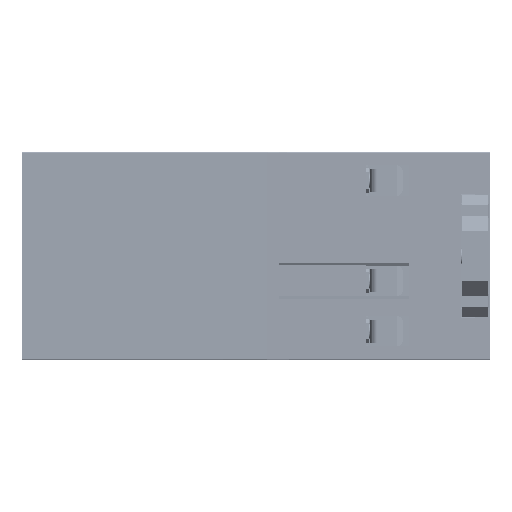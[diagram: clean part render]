
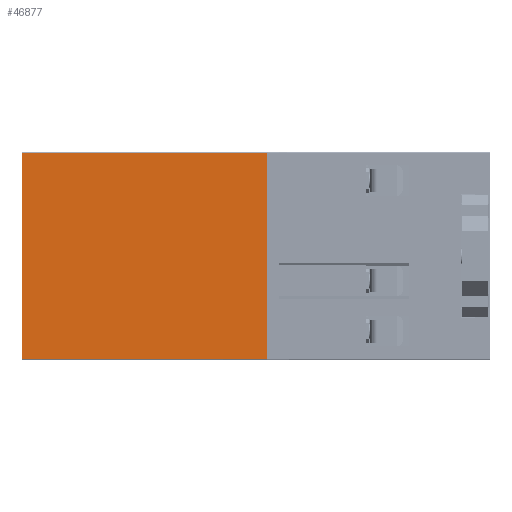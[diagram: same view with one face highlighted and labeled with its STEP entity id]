
A CAD part, left-side view. The second image highlights one B-rep face of the part: STEP entity #46877.
In plain terms, the highlighted planar face has unit normal (-1, 0.005, 0).
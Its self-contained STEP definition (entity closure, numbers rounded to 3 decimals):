
#13722=ELLIPSE('',#125497,0.2,0.2);
#13737=ELLIPSE('',#125782,0.2,0.2);
#18243=FACE_OUTER_BOUND('',#58066,.T.);
#24819=LINE('',#166776,#36214);
#24821=LINE('',#166782,#36216);
#24927=LINE('',#167073,#36322);
#24937=LINE('',#167091,#36332);
#25355=LINE('',#168016,#36750);
#25358=LINE('',#168022,#36753);
#25500=LINE('',#168360,#36895);
#25501=LINE('',#168361,#36896);
#36214=VECTOR('',#136672,1.);
#36216=VECTOR('',#136678,1.);
#36322=VECTOR('',#136888,1.);
#36332=VECTOR('',#136908,1.);
#36750=VECTOR('',#137780,1.);
#36753=VECTOR('',#137785,1.);
#36895=VECTOR('',#138205,1.);
#36896=VECTOR('',#138206,1.);
#46877=ADVANCED_FACE('',(#18243),#52619,.T.);
#52619=PLANE('',#125889);
#58066=EDGE_LOOP('',(#68371,#68372,#68373,#68374,#68375,#68376,#68377,#68378,
#68379,#68380));
#68371=ORIENTED_EDGE('',*,*,#108531,.F.);
#68372=ORIENTED_EDGE('',*,*,#109148,.T.);
#68373=ORIENTED_EDGE('',*,*,#108994,.F.);
#68374=ORIENTED_EDGE('',*,*,#108997,.F.);
#68375=ORIENTED_EDGE('',*,*,#109048,.F.);
#68376=ORIENTED_EDGE('',*,*,#108541,.F.);
#68377=ORIENTED_EDGE('',*,*,#108490,.F.);
#68378=ORIENTED_EDGE('',*,*,#108411,.F.);
#68379=ORIENTED_EDGE('',*,*,#108408,.T.);
#68380=ORIENTED_EDGE('',*,*,#109149,.T.);
#97214=VERTEX_POINT('',#166773);
#97215=VERTEX_POINT('',#166777);
#97217=VERTEX_POINT('',#166783);
#97259=VERTEX_POINT('',#166934);
#97289=VERTEX_POINT('',#167072);
#97290=VERTEX_POINT('',#167074);
#97293=VERTEX_POINT('',#167092);
#97560=VERTEX_POINT('',#168013);
#97561=VERTEX_POINT('',#168017);
#97562=VERTEX_POINT('',#168021);
#108408=EDGE_CURVE('',#97215,#97214,#24819,.T.);
#108411=EDGE_CURVE('',#97215,#97217,#24821,.T.);
#108490=EDGE_CURVE('',#97217,#97259,#13722,.T.);
#108531=EDGE_CURVE('',#97289,#97290,#24927,.T.);
#108541=EDGE_CURVE('',#97259,#97293,#24937,.T.);
#108994=EDGE_CURVE('',#97561,#97560,#25355,.T.);
#108997=EDGE_CURVE('',#97562,#97561,#25358,.T.);
#109048=EDGE_CURVE('',#97293,#97562,#13737,.T.);
#109148=EDGE_CURVE('',#97289,#97560,#25500,.T.);
#109149=EDGE_CURVE('',#97214,#97290,#25501,.T.);
#125497=AXIS2_PLACEMENT_3D('',#166933,#136819,#136820);
#125782=AXIS2_PLACEMENT_3D('',#168113,#137898,#137899);
#125889=AXIS2_PLACEMENT_3D('',#168362,#138207,#138208);
#136672=DIRECTION('',(0.,0.,1.));
#136678=DIRECTION('',(0.005,1.,0.));
#136819=DIRECTION('',(-1.,0.005,0.));
#136820=DIRECTION('',(-0.005,-1.,0.));
#136888=DIRECTION('',(0.,0.,1.));
#136908=DIRECTION('',(0.,0.,-1.));
#137780=DIRECTION('',(0.,0.,-1.));
#137785=DIRECTION('',(-0.005,-1.,0.));
#137898=DIRECTION('',(-1.,0.005,0.));
#137899=DIRECTION('',(-0.005,-1.,0.));
#138205=DIRECTION('',(-0.005,-1.,0.));
#138206=DIRECTION('',(0.005,1.,0.));
#138207=DIRECTION('',(-1.,0.005,0.));
#138208=DIRECTION('',(-0.005,-1.,0.));
#166773=CARTESIAN_POINT('',(-42.829,4.914,4.021));
#166776=CARTESIAN_POINT('',(-42.829,4.914,1.571));
#166777=CARTESIAN_POINT('',(-42.829,4.914,1.571));
#166782=CARTESIAN_POINT('',(-42.83,4.744,1.571));
#166783=CARTESIAN_POINT('',(-42.794,11.714,1.571));
#166933=CARTESIAN_POINT('',(-42.794,11.714,1.371));
#166934=CARTESIAN_POINT('',(-42.793,11.914,1.371));
#167072=CARTESIAN_POINT('',(-42.629,43.914,-22.829));
#167073=CARTESIAN_POINT('',(-42.629,43.914,-22.979));
#167074=CARTESIAN_POINT('',(-42.629,43.914,4.021));
#167091=CARTESIAN_POINT('',(-42.793,11.914,-22.979));
#167092=CARTESIAN_POINT('',(-42.793,11.914,-20.179));
#168013=CARTESIAN_POINT('',(-42.829,4.914,-22.829));
#168016=CARTESIAN_POINT('',(-42.829,4.914,-20.379));
#168017=CARTESIAN_POINT('',(-42.829,4.914,-20.379));
#168021=CARTESIAN_POINT('',(-42.794,11.714,-20.379));
#168022=CARTESIAN_POINT('',(-42.83,4.744,-20.379));
#168113=CARTESIAN_POINT('',(-42.794,11.714,-20.179));
#168360=CARTESIAN_POINT('',(-42.629,43.914,-22.829));
#168361=CARTESIAN_POINT('',(-42.629,43.914,4.021));
#168362=CARTESIAN_POINT('',(-42.629,43.914,-22.979));
